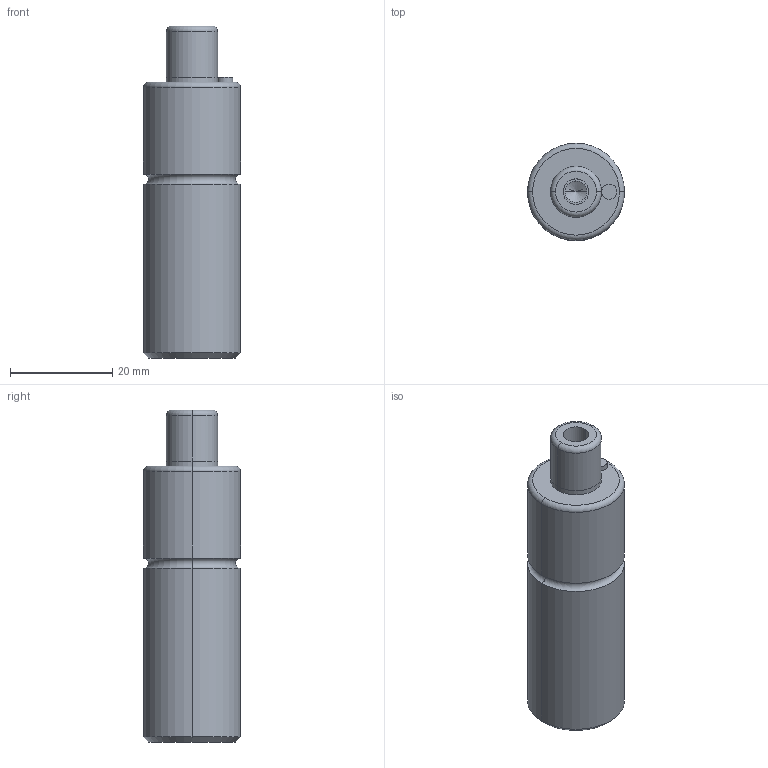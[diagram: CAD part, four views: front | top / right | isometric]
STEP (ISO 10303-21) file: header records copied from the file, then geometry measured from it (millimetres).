
FILE_DESCRIPTION(/* description */ (''),/* implementation_level */ '2;1');
FILE_NAME(/* name */ '3d_mgsa19-10_04550_r00.stp',/* time_stamp */ '2011-01-10T14:13:36+09:00',/* author */ ('MISUMI'),/* organization */ (''),/* preprocessor_version */ 'ST-DEVELOPER v11',/* originating_system */ 'UGS - NX 5.0',/* authorisation */ '');
FILE_SCHEMA (('CONFIG_CONTROL_DESIGN'));
Length unit declared in the file: millimetre
Products named in the file (1): 3d_mgsa19-10_04550_r00
Bounding box: 19 x 19 x 65 mm (x, y, z)
Volume: 15655.1 mm3; surface area: 4410.7 mm2
Topology: 1 solids, 1 shells, 36 faces, 74 edges, 42 vertices
Faces by surface type: cylinder 18, torus 6, cone 6, plane 6
Entity records: 1014 total; most frequent: DIRECTION 190, CARTESIAN_POINT 149, ORIENTED_EDGE 140, AXIS2_PLACEMENT_3D 83, EDGE_CURVE 70, CIRCLE 46, EDGE_LOOP 42, VERTEX_POINT 42
